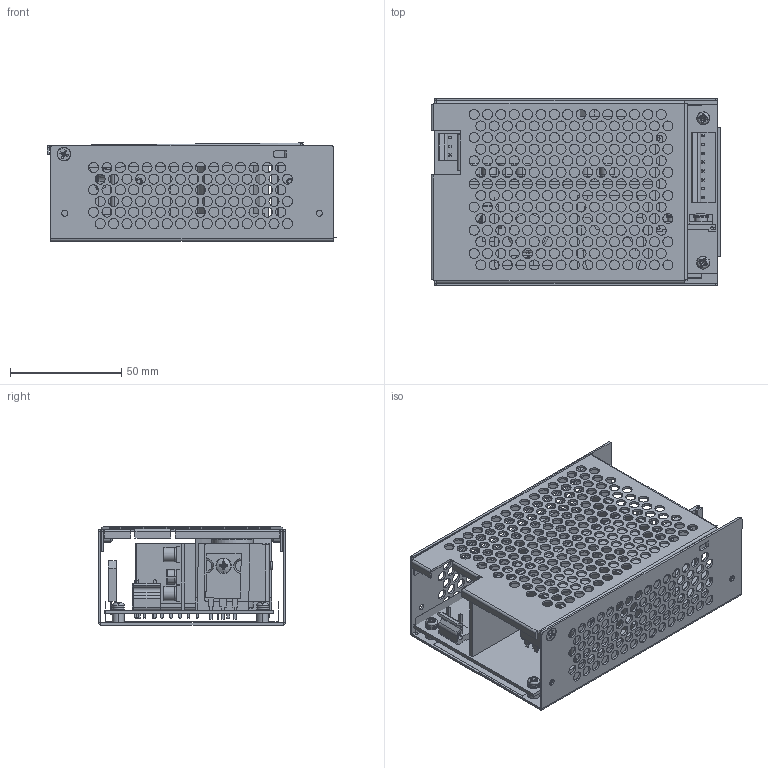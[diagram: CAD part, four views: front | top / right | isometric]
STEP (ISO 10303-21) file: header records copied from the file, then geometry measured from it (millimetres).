
FILE_DESCRIPTION (( 'STEP AP203' ), '1' );
FILE_NAME ('SNP-G169-CM.STEP', '2014-11-03T08:03:31', ( 'mech1' ), ( '' ), 'SwSTEP 2.0', 'SolidWorks 2014', '' );
FILE_SCHEMA (( 'CONFIG_CONTROL_DESIGN' ));
Length unit declared in the file: millimetre
Products named in the file (28): 890-223H; 710-733; SNP-G169; TO-3P; 710-7702; 790-913X; 360-G209-1; 242-k112; 831-5C62-3; 790-513X; 855-G20T-1; 831-5C61-3; 790-1S6X; TO-220; C1; 832-5C63-3; SNP-G169-CM; 410-GU8J; C2; 850-G20T-M; 800-GB30; 710-738; TO-220-2; 800-G21Q; 710-7308; PIN-1.14x17.45; 747-0603
Assembly tree (50 placements, depth 4):
  SNP-G169-CM
    831-5C61-3
    832-5C63-3
    SNP-G169
      850-G20T-M
      710-7308
        710-738
        PIN-1.14x17.45  x8
      710-7702
        710-733
        PIN-1.14x17.45  x2
      242-k112
      855-G20T-1
        855-G20T-1
        C1  x5
        C2  x2
      800-G21Q
      890-223H
      TO-3P
      360-G209-1
      790-513X  x4
      TO-220
      410-GU8J
      800-GB30
      TO-220-2  x2
      747-0603  x2
    790-913X  x4
    831-5C62-3
    790-1S6X  x2
Bounding box: 130.03 x 83.8 x 44.04 mm (x, y, z)
Volume: 101433.4 mm3; surface area: 138889.5 mm2
Topology: 50 solids, 50 shells, 2564 faces, 6840 edges, 4370 vertices
Faces by surface type: cylinder 1129, plane 851, bspline 440, torus 58, sphere 56, cone 30
Entity records: 67212 total; most frequent: CARTESIAN_POINT 15068, DIRECTION 10324, ORIENTED_EDGE 9830, EDGE_CURVE 4915, AXIS2_PLACEMENT_3D 3982, VERTEX_POINT 3206, EDGE_LOOP 2731, LINE 2360
